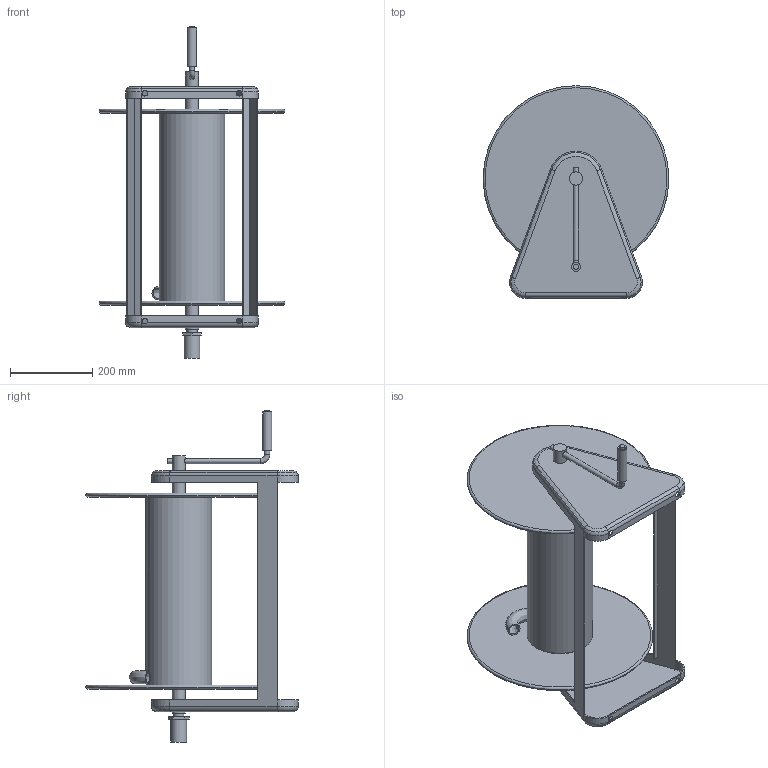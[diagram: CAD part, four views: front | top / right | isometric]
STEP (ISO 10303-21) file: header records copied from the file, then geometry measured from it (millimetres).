
FILE_DESCRIPTION( ( 'Unknown' ), '1' );
FILE_NAME( 'C:/Documents and Settings/jlb/Desktop/CA3X118 X.stp', 'Unknown', ( 'Unknown' ), ( 'Unknown' ), 'PSStep 10.1', 'Unknown', ' ' );
FILE_SCHEMA( ( 'AUTOMOTIVE_DESIGN { 1 0 10303 214 1 1 1 1 }' ) );
Length unit declared in the file: millimetre
Products named in the file (5): 1; 2; 3; 4; 5
Bounding box: 450.85 x 515.14 x 805.69 mm (x, y, z)
Volume: 4437110 mm3; surface area: 1740572.7 mm2
Topology: 5 solids, 5 shells, 108 faces, 247 edges, 157 vertices
Faces by surface type: plane 56, cylinder 38, torus 11, bspline 3
Full cylindrical faces by diameter (mm): 12.7 x3, 13.081 x1, 13.487 x5, 22.225 x1, 24.618 x1, 25.4 x1, 31.75 x5, 38.1 x1, 156.388 x1, 159.385 x1
Entity records: 4957 total; most frequent: CARTESIAN_POINT 1668, DIRECTION 512, ORIENTED_EDGE 420, EDGE_CURVE 210, AXIS2_PLACEMENT_3D 200, EDGE_LOOP 160, VERTEX_POINT 148, FACE_OUTER_BOUND 136
